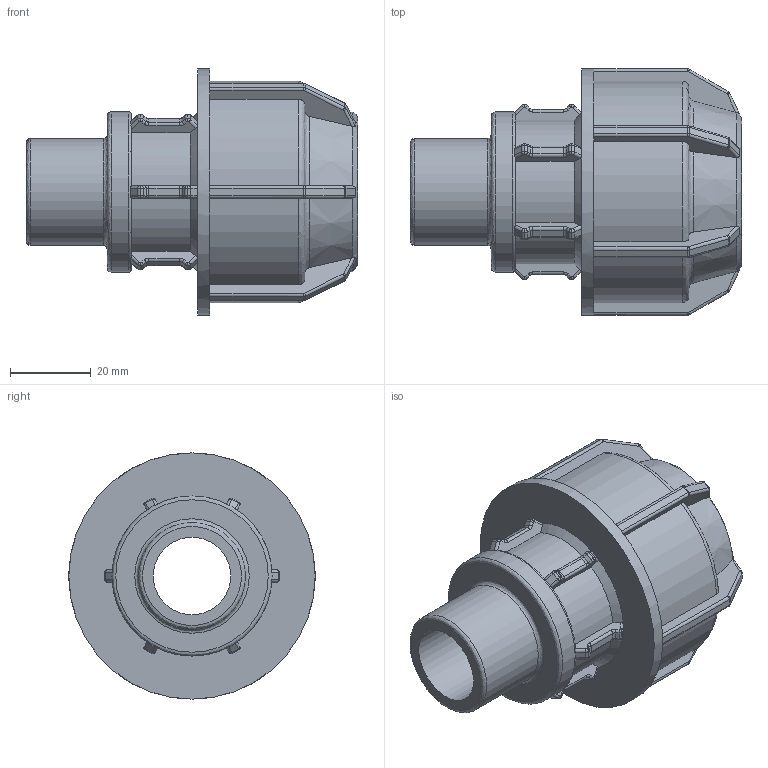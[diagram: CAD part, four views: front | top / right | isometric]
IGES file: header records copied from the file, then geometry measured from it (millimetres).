
Global section: file name: 140200032007.ipt; native system: Autodesk Inventor 2015; preprocessor: unknown; author: KIM; date: 20180409.130933; units: millimetre
Bounding box: 82 x 61 x 61 mm (x, y, z)
Volume: 66179.3 mm3; surface area: 25002.9 mm2
Topology: 1 solids, 1 shells, 470 faces, 1174 edges, 703 vertices
Faces by surface type: cylinder 171, plane 158, revolution 129, cone 12
Full cylindrical faces by diameter (mm): 26.441 x1, 39.661 x1, 61 x1
